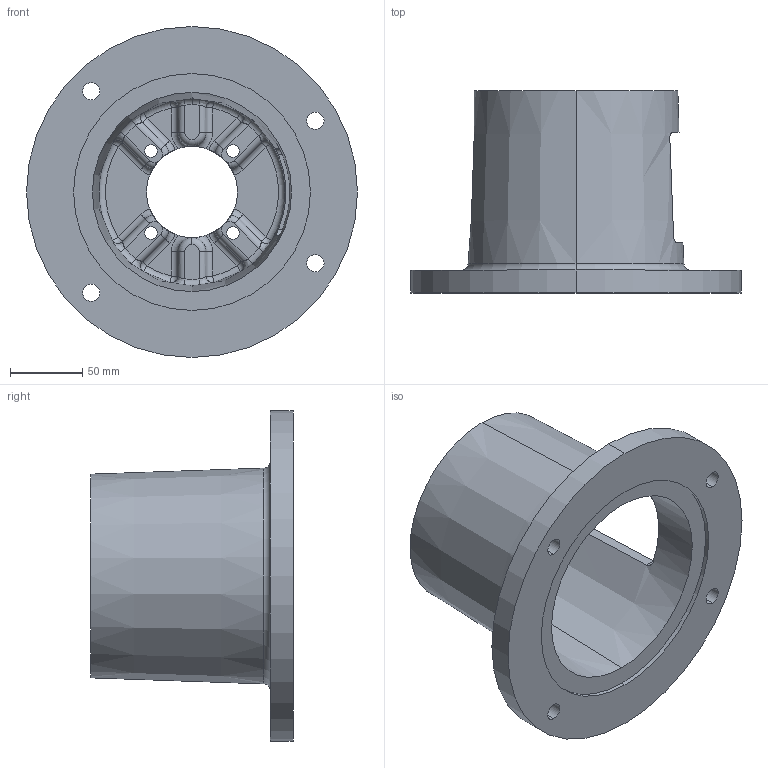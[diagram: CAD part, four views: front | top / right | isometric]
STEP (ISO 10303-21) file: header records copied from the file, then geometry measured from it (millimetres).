
FILE_DESCRIPTION (( 'STEP AP203' ), '1' );
FILE_NAME ('E6445563MS.STEP', '2014-11-03T17:56:05', ( '' ), ( '' ), 'SwSTEP 2.0', 'SolidWorks 2014', '' );
FILE_SCHEMA (( 'CONFIG_CONTROL_DESIGN' ));
Length unit declared in the file: inch
Products named in the file (1): E6445563MS
Bounding box: 228.6 x 139.7 x 228.6 mm (x, y, z)
Volume: 809978.3 mm3; surface area: 193631.3 mm2
Topology: 1 solids, 1 shells, 172 faces, 426 edges, 246 vertices
Faces by surface type: cylinder 61, torus 39, plane 32, bspline 24, sphere 12, cone 4
Entity records: 6978 total; most frequent: CARTESIAN_POINT 2945, DIRECTION 859, ORIENTED_EDGE 828, EDGE_CURVE 414, AXIS2_PLACEMENT_3D 378, VERTEX_POINT 246, CIRCLE 229, EDGE_LOOP 194
